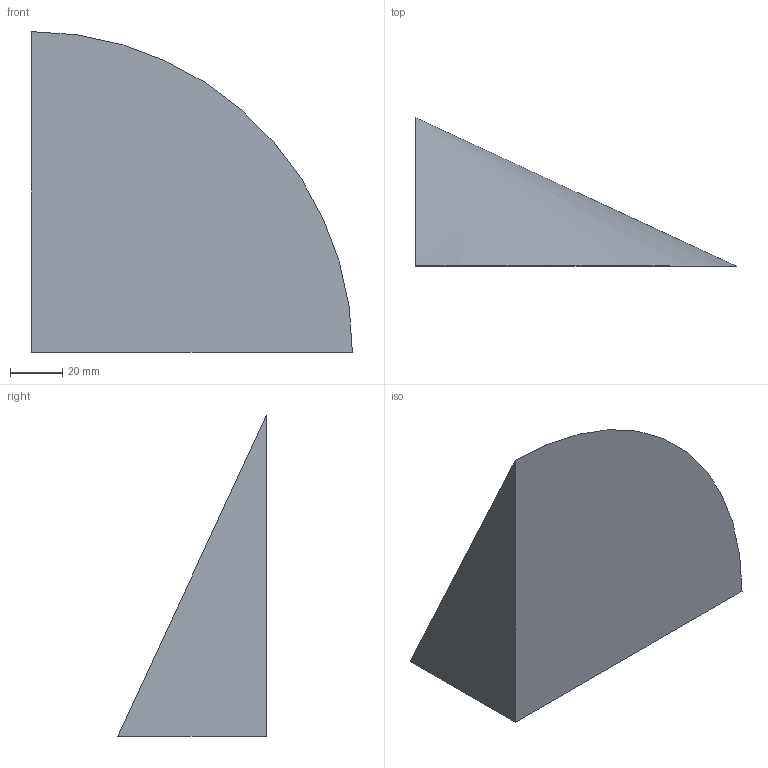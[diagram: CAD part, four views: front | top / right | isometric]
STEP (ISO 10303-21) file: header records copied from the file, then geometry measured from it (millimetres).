
FILE_DESCRIPTION(('CATIA V5 STEP Exchange'),'2;1');
FILE_NAME('C:\_Andres\UNIVERSIDAD\IQS\ASIGNATURAS\DAO\EXF\EXF-16172c\2inicio\Perez_Pellicer_Ej07_v23.stp','2017-03-05T21:18:14+00:00',('none'),('none'),'CATIA Version 5-6 Release 2014 SP1 HF18','CATIA V5 STEP AP203','none');
FILE_SCHEMA(('CONFIG_CONTROL_DESIGN'));
Length unit declared in the file: millimetre
Products named in the file (1): Perez_Pellicer_Ej07_v23
Bounding box: 123 x 57 x 123 mm (x, y, z)
Volume: 225763.5 mm3; surface area: 31989.5 mm2
Topology: 1 solids, 1 shells, 4 faces, 7 edges, 4 vertices
Faces by surface type: plane 3, cone 1
Entity records: 131 total; most frequent: CARTESIAN_POINT 15, DIRECTION 14, ORIENTED_EDGE 12, AXIS2_PLACEMENT_3D 6, EDGE_CURVE 6, VECTOR 5, LINE 5, ADVANCED_FACE 4
